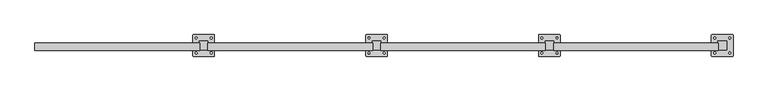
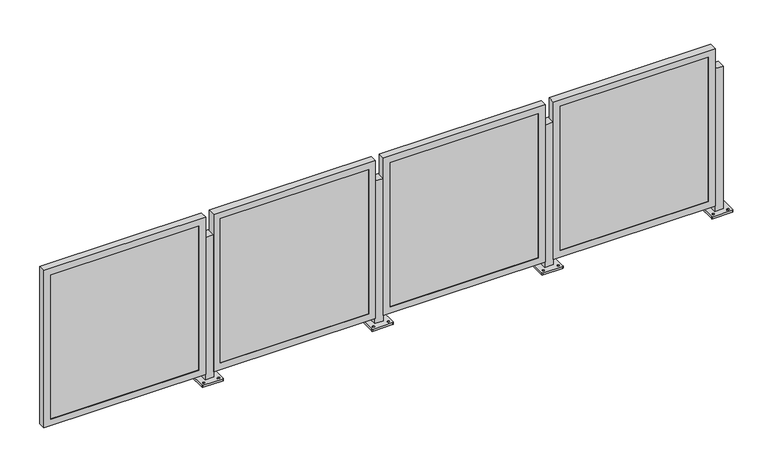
"""IFC4 building model written with IfcOpenShell, lengths in millimetres: railing geometry, Railing - Amico Architectural - Perforated Railing - Venetian."""

from ifc_helpers import new_model, si_unit, frame, origin, place, context, project, spatial, polyline, circle_curve, outline, extrude, faceted_brep, source, transform, mapped, element, save
from ifc_brep_helpers import plane_surface, cylinder_surface, revolved_surface, advanced_brep


def railing_52cd1594(model_context):
    return source(origin(), model_context, "Body", "SolidModel", [
        advanced_brep(
        [(-3170.0306556, -6822.178618, 914.4), (-3170.0306556, -6872.978618, 914.4), (-3119.2306556, -6872.978618, 914.4), (-3119.2306556, -6822.178618, 914.4), (-3208.1306557, -6907.903577, 0.0), (-3208.1306557, -6787.2536591, 0.0), (-3204.9556276, -6784.0786309, 0.0), (-3084.3056836, -6784.0786309, 0.0), (-3081.1306554, -6787.2536591, 0.0), (-3081.1306554, -6907.903577, 0.0), (-3084.3056836, -6911.0786052, 0.0), (-3204.9556276, -6911.0786052, 0.0), (-3189.0806431, -6897.5848727, 0.0), (-3189.0806431, -6886.4723602, 0.0), (-3189.080654, -6808.6848683, 0.0), (-3189.080654, -6797.5723867, 0.0), (-3100.1806422, -6897.5848711, 0.0), (-3100.1806422, -6886.4723605, 0.0), (-3100.1806531, -6808.6848668, 0.0), (-3100.1806531, -6797.572387, 0.0), (-3170.0306556, -6822.178618, 12.7), (-3170.0306556, -6872.978618, 12.7), (-3119.2306556, -6872.978618, 12.7), (-3119.2306556, -6822.178618, 12.7), (-3208.1306557, -6907.903577, 12.7), (-3204.9556276, -6911.0786052, 12.7), (-3084.3056836, -6911.0786052, 12.7), (-3081.1306554, -6907.903577, 12.7), (-3081.1306554, -6787.2536591, 12.7), (-3084.3056836, -6784.0786309, 12.7), (-3204.9556276, -6784.0786309, 12.7), (-3208.1306557, -6787.2536591, 12.7), (-3189.0806431, -6897.5848727, 12.7), (-3189.0806431, -6886.4723602, 12.7), (-3189.080654, -6808.6848683, 12.7), (-3189.080654, -6797.5723867, 12.7), (-3100.1806422, -6897.5848711, 12.7), (-3100.1806422, -6886.4723605, 12.7), (-3100.1806531, -6808.6848668, 12.7), (-3100.1806531, -6797.572387, 12.7)],
        [
            (0, 1),
            (1, 2),
            (2, 3),
            (3, 0),
            (4, 5),
            (5, 6, circle_curve(frame((-3204.9556276, -6787.2536591, 0.0), z_axis=(0.0, 0.0, -1.0), x_axis=(0.0, 1.0, 0.0)), 3.1750282)),
            (6, 7),
            (7, 8, circle_curve(frame((-3084.3056836, -6787.2536591, 0.0), z_axis=(0.0, 0.0, -1.0), x_axis=(0.0, 1.0, 0.0)), 3.1750282)),
            (8, 9),
            (9, 10, circle_curve(frame((-3084.3056836, -6907.903577, 0.0), z_axis=(0.0, 0.0, -1.0), x_axis=(0.0, 1.0, 0.0)), 3.1750282)),
            (10, 11),
            (11, 4, circle_curve(frame((-3204.9556276, -6907.903577, 0.0), z_axis=(0.0, 0.0, -1.0), x_axis=(0.0, 1.0, 0.0)), 3.1750282)),
            (12, 13, circle_curve(frame((-3189.0806431, -6892.0286164, 0.0), z_axis=(0.0, 0.0, 1.0), x_axis=(0.0, 1.0, 0.0)), 5.5562562)),
            (13, 12, circle_curve(frame((-3189.0806431, -6892.0286164, 0.0), z_axis=(0.0, 0.0, 1.0), x_axis=(0.0, 1.0, 0.0)), 5.5562562)),
            (14, 15, circle_curve(frame((-3189.080654, -6803.1286275, 0.0), z_axis=(0.0, 0.0, 1.0), x_axis=(0.0, 1.0, 0.0)), 5.5562408)),
            (15, 14, circle_curve(frame((-3189.080654, -6803.1286275, 0.0), z_axis=(0.0, 0.0, 1.0), x_axis=(0.0, 1.0, 0.0)), 5.5562408)),
            (16, 17, circle_curve(frame((-3100.1806422, -6892.0286158, 0.0), z_axis=(0.0, 0.0, 1.0), x_axis=(0.0, 1.0, 0.0)), 5.5562553)),
            (17, 16, circle_curve(frame((-3100.1806422, -6892.0286158, 0.0), z_axis=(0.0, 0.0, 1.0), x_axis=(0.0, 1.0, 0.0)), 5.5562553)),
            (18, 19, circle_curve(frame((-3100.1806531, -6803.1286269, 0.0), z_axis=(0.0, 0.0, 1.0), x_axis=(0.0, 1.0, 0.0)), 5.5562399)),
            (19, 18, circle_curve(frame((-3100.1806531, -6803.1286269, 0.0), z_axis=(0.0, 0.0, 1.0), x_axis=(0.0, 1.0, 0.0)), 5.5562399)),
            (0, 20),
            (20, 21),
            (21, 1),
            (21, 22),
            (22, 2),
            (22, 23),
            (23, 3),
            (23, 20),
            (24, 25, circle_curve(frame((-3204.9556276, -6907.903577, 12.7), z_axis=(0.0, 0.0, 1.0), x_axis=(0.0, 1.0, 0.0)), 3.1750282)),
            (25, 26),
            (26, 27, circle_curve(frame((-3084.3056836, -6907.903577, 12.7), z_axis=(0.0, 0.0, 1.0), x_axis=(0.0, 1.0, 0.0)), 3.1750282)),
            (27, 28),
            (28, 29, circle_curve(frame((-3084.3056836, -6787.2536591, 12.7), z_axis=(0.0, 0.0, 1.0), x_axis=(0.0, 1.0, 0.0)), 3.1750282)),
            (29, 30),
            (30, 31, circle_curve(frame((-3204.9556276, -6787.2536591, 12.7), z_axis=(0.0, 0.0, 1.0), x_axis=(0.0, 1.0, 0.0)), 3.1750282)),
            (31, 24),
            (32, 33, circle_curve(frame((-3189.0806431, -6892.0286164, 12.7), z_axis=(0.0, 0.0, -1.0), x_axis=(0.0, 1.0, 0.0)), 5.5562562)),
            (33, 32, circle_curve(frame((-3189.0806431, -6892.0286164, 12.7), z_axis=(0.0, 0.0, -1.0), x_axis=(0.0, 1.0, 0.0)), 5.5562562)),
            (34, 35, circle_curve(frame((-3189.080654, -6803.1286275, 12.7), z_axis=(0.0, 0.0, -1.0), x_axis=(0.0, 1.0, 0.0)), 5.5562408)),
            (35, 34, circle_curve(frame((-3189.080654, -6803.1286275, 12.7), z_axis=(0.0, 0.0, -1.0), x_axis=(0.0, 1.0, 0.0)), 5.5562408)),
            (36, 37, circle_curve(frame((-3100.1806422, -6892.0286158, 12.7), z_axis=(0.0, 0.0, -1.0), x_axis=(0.0, 1.0, 0.0)), 5.5562553)),
            (37, 36, circle_curve(frame((-3100.1806422, -6892.0286158, 12.7), z_axis=(0.0, 0.0, -1.0), x_axis=(0.0, 1.0, 0.0)), 5.5562553)),
            (38, 39, circle_curve(frame((-3100.1806531, -6803.1286269, 12.7), z_axis=(0.0, 0.0, -1.0), x_axis=(0.0, 1.0, 0.0)), 5.5562399)),
            (39, 38, circle_curve(frame((-3100.1806531, -6803.1286269, 12.7), z_axis=(0.0, 0.0, -1.0), x_axis=(0.0, 1.0, 0.0)), 5.5562399)),
            (24, 4),
            (11, 25),
            (10, 26),
            (9, 27),
            (8, 28),
            (7, 29),
            (6, 30),
            (5, 31),
            (32, 12),
            (13, 33),
            (34, 14),
            (15, 35),
            (36, 16),
            (17, 37),
            (38, 18),
            (19, 39),
        ],
        [
            plane_surface(frame((-3170.0306556, -6872.978618, 914.4), z_axis=(0.0, 0.0, 1.0), x_axis=(0.0, -1.0, 0.0))),
            plane_surface(frame((-3170.0306556, -6872.978618, 0.0), z_axis=(0.0, 0.0, -1.0), x_axis=(0.0, 1.0, 0.0))),
            plane_surface(frame((-3170.0306556, -6822.178618, 914.4), z_axis=(-1.0, 0.0, 0.0), x_axis=(0.0, 0.0, -1.0))),
            plane_surface(frame((-3170.0306556, -6872.978618, 914.4), z_axis=(0.0, -1.0, 0.0), x_axis=(0.0, 0.0, -1.0))),
            plane_surface(frame((-3119.2306556, -6872.978618, 914.4), z_axis=(1.0, 0.0, 0.0), x_axis=(0.0, 0.0, -1.0))),
            plane_surface(frame((-3119.2306556, -6822.178618, 914.4), z_axis=(0.0, 1.0, 0.0), x_axis=(0.0, 0.0, -1.0))),
            plane_surface(frame((-3204.9556276, -6904.7285488, 12.7), z_axis=(0.0, 0.0, 1.0), x_axis=(-1.0, 0.0, 0.0))),
            cylinder_surface(frame((-3204.9556276, -6907.903577, 0.0), z_axis=(0.0, 0.0, 1.0), x_axis=(0.0, 1.0, 0.0)), 3.1750282),
            plane_surface(frame((-3204.9556276, -6911.0786052, 12.7), z_axis=(1.1945386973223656e-12, -1.0, 0.0), x_axis=(0.0, 0.0, -1.0))),
            cylinder_surface(frame((-3084.3056836, -6907.903577, 0.0), z_axis=(0.0, 0.0, 1.0), x_axis=(0.0, 1.0, 0.0)), 3.1750282),
            plane_surface(frame((-3081.1306554, -6907.903577, 12.7), z_axis=(1.0, 0.0, 0.0), x_axis=(0.0, 0.0, -1.0))),
            cylinder_surface(frame((-3084.3056836, -6787.2536591, 0.0), z_axis=(0.0, 0.0, 1.0), x_axis=(0.0, 1.0, 0.0)), 3.1750282),
            plane_surface(frame((-3084.3056836, -6784.0786309, 12.7), z_axis=(-1.1946088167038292e-12, 1.0, 0.0), x_axis=(0.0, 0.0, -1.0))),
            cylinder_surface(frame((-3204.9556276, -6787.2536591, 0.0), z_axis=(0.0, 0.0, 1.0), x_axis=(0.0, 1.0, 0.0)), 3.1750282),
            plane_surface(frame((-3208.1306557, -6787.2536591, 12.7), z_axis=(-1.0, 0.0, 0.0), x_axis=(0.0, 0.0, -1.0))),
            revolved_surface(polyline([(-3189.0806431, -6886.4723602, 0.0), (-3189.0806431, -6886.4723602, 12.7)]), (-3189.0806431, -6892.0286164, 0.0), (0.0, 0.0, -1.0)),
            revolved_surface(polyline([(-3189.080654, -6797.572386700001, 0.0), (-3189.080654, -6797.572386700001, 12.7)]), (-3189.080654, -6803.1286275, 0.0), (0.0, 0.0, -1.0)),
            revolved_surface(polyline([(-3100.1806422, -6886.4723605, 0.0), (-3100.1806422, -6886.4723605, 12.7)]), (-3100.1806422, -6892.0286158, 0.0), (0.0, 0.0, -1.0)),
            revolved_surface(polyline([(-3100.1806531, -6797.572387, 0.0), (-3100.1806531, -6797.572387, 12.7)]), (-3100.1806531, -6803.1286269, 0.0), (0.0, 0.0, -1.0)),
        ],
        [
            (0, [[1, 2, 3, 4]]),
            (1, [[5, 6, 7, 8, 9, 10, 11, 12], [13, 14], [15, 16], [17, 18], [19, 20]]),
            (2, [[-1, 21, 22, 23]]),
            (3, [[-2, -23, 24, 25]]),
            (4, [[-3, -25, 26, 27]]),
            (5, [[-4, -27, 28, -21]]),
            (6, [[29, 30, 31, 32, 33, 34, 35, 36], [-22, -28, -26, -24], [37, 38], [39, 40], [41, 42], [43, 44]]),
            (7, [[-29, 45, -12, 46]]),
            (8, [[-30, -46, -11, 47]]),
            (9, [[-31, -47, -10, 48]]),
            (10, [[-32, -48, -9, 49]]),
            (11, [[-33, -49, -8, 50]]),
            (12, [[-34, -50, -7, 51]]),
            (13, [[-35, -51, -6, 52]]),
            (14, [[-36, -52, -5, -45]]),
            (15, [[-37, 53, -14, 54]]),
            (15, [[-38, -54, -13, -53]]),
            (16, [[-39, 55, -16, 56]]),
            (16, [[-40, -56, -15, -55]]),
            (17, [[-41, 57, -18, 58]]),
            (17, [[-42, -58, -17, -57]]),
            (18, [[-43, 59, -20, 60]]),
            (18, [[-44, -60, -19, -59]]),
        ],
    ),
        faceted_brep([(-4136.435109, -6875.721818, 47.625), (-3168.060109, -6875.721818, 47.625), (-3168.060109, -6875.721818, 1044.575), (-4136.435109, -6875.721818, 1044.575), (-4095.160109, -6875.721818, 1003.3), (-3209.335109, -6875.721818, 1003.3), (-3209.335109, -6875.721818, 88.9), (-4095.160109, -6875.721818, 88.9), (-4095.160109, -6872.978618, 1003.3), (-4095.160109, -6872.978618, 88.9), (-4136.435109, -6831.8485215, 1044.575), (-4136.435109, -6831.8485215, 47.625), (-4133.260109, -6831.8485215, 1041.4), (-4133.260109, -6872.978618, 1041.4), (-4133.260109, -6872.978618, 50.8), (-4133.260109, -6831.8485215, 50.8), (-3209.335109, -6872.978618, 88.9), (-3168.060109, -6831.8485215, 47.625), (-3171.235109, -6872.978618, 50.8), (-3171.235109, -6831.8485215, 50.8), (-3209.335109, -6872.978618, 1003.3), (-3168.060109, -6831.8485215, 1044.575), (-3171.235109, -6872.978618, 1041.4), (-3171.235109, -6831.8485215, 1041.4)], [[[0, 1, 2, 3], [4, 5, 6, 7]], [[8, 4, 7, 9]], [[3, 10, 11, 0]], [[12, 13, 14, 15]], [[9, 7, 6, 16]], [[0, 11, 17, 1]], [[15, 14, 18, 19]], [[16, 6, 5, 20]], [[1, 17, 21, 2]], [[19, 18, 22, 23]], [[20, 5, 4, 8]], [[10, 21, 17, 11], [15, 19, 23, 12]], [[2, 21, 10, 3]], [[13, 22, 18, 14], [9, 16, 20, 8]], [[23, 22, 13, 12]]]),
        extrude(outline(polyline([(-4133.260109, -6863.453618), (-3171.235109, -6863.453618), (-3171.235109, -6872.978618), (-4133.260109, -6872.978618), (-4133.260109, -6863.453618)])), frame((0.0, 0.0, 50.8), z_axis=(0.0, 0.0, 1.0), x_axis=(1.0, 0.0, 0.0)), (0.0, 0.0, 1.0), 990.6),
        advanced_brep(
        [(-4186.0306556, -6822.178618, 914.4), (-4186.0306556, -6872.978618, 914.4), (-4135.2306556, -6872.978618, 914.4), (-4135.2306556, -6822.178618, 914.4), (-4224.1306557, -6907.903577, 0.0), (-4224.1306557, -6787.2536591, 0.0), (-4220.9556276, -6784.0786309, 0.0), (-4100.3056836, -6784.0786309, 0.0), (-4097.1306554, -6787.2536591, 0.0), (-4097.1306554, -6907.903577, 0.0), (-4100.3056836, -6911.0786052, 0.0), (-4220.9556276, -6911.0786052, 0.0), (-4205.0806431, -6897.5848727, 0.0), (-4205.0806431, -6886.4723602, 0.0), (-4205.080654, -6808.6848683, 0.0), (-4205.080654, -6797.5723867, 0.0), (-4116.1806422, -6897.5848711, 0.0), (-4116.1806422, -6886.4723605, 0.0), (-4116.1806531, -6808.6848668, 0.0), (-4116.1806531, -6797.572387, 0.0), (-4186.0306556, -6822.178618, 12.7), (-4186.0306556, -6872.978618, 12.7), (-4135.2306556, -6872.978618, 12.7), (-4135.2306556, -6822.178618, 12.7), (-4224.1306557, -6907.903577, 12.7), (-4220.9556276, -6911.0786052, 12.7), (-4100.3056836, -6911.0786052, 12.7), (-4097.1306554, -6907.903577, 12.7), (-4097.1306554, -6787.2536591, 12.7), (-4100.3056836, -6784.0786309, 12.7), (-4220.9556276, -6784.0786309, 12.7), (-4224.1306557, -6787.2536591, 12.7), (-4205.0806431, -6897.5848727, 12.7), (-4205.0806431, -6886.4723602, 12.7), (-4205.080654, -6808.6848683, 12.7), (-4205.080654, -6797.5723867, 12.7), (-4116.1806422, -6897.5848711, 12.7), (-4116.1806422, -6886.4723605, 12.7), (-4116.1806531, -6808.6848668, 12.7), (-4116.1806531, -6797.572387, 12.7)],
        [
            (0, 1),
            (1, 2),
            (2, 3),
            (3, 0),
            (4, 5),
            (5, 6, circle_curve(frame((-4220.9556276, -6787.2536591, 0.0), z_axis=(0.0, 0.0, -1.0), x_axis=(0.0, 1.0, 0.0)), 3.1750282)),
            (6, 7),
            (7, 8, circle_curve(frame((-4100.3056836, -6787.2536591, 0.0), z_axis=(0.0, 0.0, -1.0), x_axis=(0.0, 1.0, 0.0)), 3.1750282)),
            (8, 9),
            (9, 10, circle_curve(frame((-4100.3056836, -6907.903577, 0.0), z_axis=(0.0, 0.0, -1.0), x_axis=(0.0, 1.0, 0.0)), 3.1750282)),
            (10, 11),
            (11, 4, circle_curve(frame((-4220.9556276, -6907.903577, 0.0), z_axis=(0.0, 0.0, -1.0), x_axis=(0.0, 1.0, 0.0)), 3.1750282)),
            (12, 13, circle_curve(frame((-4205.0806431, -6892.0286164, 0.0), z_axis=(0.0, 0.0, 1.0), x_axis=(0.0, 1.0, 0.0)), 5.5562562)),
            (13, 12, circle_curve(frame((-4205.0806431, -6892.0286164, 0.0), z_axis=(0.0, 0.0, 1.0), x_axis=(0.0, 1.0, 0.0)), 5.5562562)),
            (14, 15, circle_curve(frame((-4205.080654, -6803.1286275, 0.0), z_axis=(0.0, 0.0, 1.0), x_axis=(0.0, 1.0, 0.0)), 5.5562408)),
            (15, 14, circle_curve(frame((-4205.080654, -6803.1286275, 0.0), z_axis=(0.0, 0.0, 1.0), x_axis=(0.0, 1.0, 0.0)), 5.5562408)),
            (16, 17, circle_curve(frame((-4116.1806422, -6892.0286158, 0.0), z_axis=(0.0, 0.0, 1.0), x_axis=(0.0, 1.0, 0.0)), 5.5562553)),
            (17, 16, circle_curve(frame((-4116.1806422, -6892.0286158, 0.0), z_axis=(0.0, 0.0, 1.0), x_axis=(0.0, 1.0, 0.0)), 5.5562553)),
            (18, 19, circle_curve(frame((-4116.1806531, -6803.1286269, 0.0), z_axis=(0.0, 0.0, 1.0), x_axis=(0.0, 1.0, 0.0)), 5.5562399)),
            (19, 18, circle_curve(frame((-4116.1806531, -6803.1286269, 0.0), z_axis=(0.0, 0.0, 1.0), x_axis=(0.0, 1.0, 0.0)), 5.5562399)),
            (0, 20),
            (20, 21),
            (21, 1),
            (21, 22),
            (22, 2),
            (22, 23),
            (23, 3),
            (23, 20),
            (24, 25, circle_curve(frame((-4220.9556276, -6907.903577, 12.7), z_axis=(0.0, 0.0, 1.0), x_axis=(0.0, 1.0, 0.0)), 3.1750282)),
            (25, 26),
            (26, 27, circle_curve(frame((-4100.3056836, -6907.903577, 12.7), z_axis=(0.0, 0.0, 1.0), x_axis=(0.0, 1.0, 0.0)), 3.1750282)),
            (27, 28),
            (28, 29, circle_curve(frame((-4100.3056836, -6787.2536591, 12.7), z_axis=(0.0, 0.0, 1.0), x_axis=(0.0, 1.0, 0.0)), 3.1750282)),
            (29, 30),
            (30, 31, circle_curve(frame((-4220.9556276, -6787.2536591, 12.7), z_axis=(0.0, 0.0, 1.0), x_axis=(0.0, 1.0, 0.0)), 3.1750282)),
            (31, 24),
            (32, 33, circle_curve(frame((-4205.0806431, -6892.0286164, 12.7), z_axis=(0.0, 0.0, -1.0), x_axis=(0.0, 1.0, 0.0)), 5.5562562)),
            (33, 32, circle_curve(frame((-4205.0806431, -6892.0286164, 12.7), z_axis=(0.0, 0.0, -1.0), x_axis=(0.0, 1.0, 0.0)), 5.5562562)),
            (34, 35, circle_curve(frame((-4205.080654, -6803.1286275, 12.7), z_axis=(0.0, 0.0, -1.0), x_axis=(0.0, 1.0, 0.0)), 5.5562408)),
            (35, 34, circle_curve(frame((-4205.080654, -6803.1286275, 12.7), z_axis=(0.0, 0.0, -1.0), x_axis=(0.0, 1.0, 0.0)), 5.5562408)),
            (36, 37, circle_curve(frame((-4116.1806422, -6892.0286158, 12.7), z_axis=(0.0, 0.0, -1.0), x_axis=(0.0, 1.0, 0.0)), 5.5562553)),
            (37, 36, circle_curve(frame((-4116.1806422, -6892.0286158, 12.7), z_axis=(0.0, 0.0, -1.0), x_axis=(0.0, 1.0, 0.0)), 5.5562553)),
            (38, 39, circle_curve(frame((-4116.1806531, -6803.1286269, 12.7), z_axis=(0.0, 0.0, -1.0), x_axis=(0.0, 1.0, 0.0)), 5.5562399)),
            (39, 38, circle_curve(frame((-4116.1806531, -6803.1286269, 12.7), z_axis=(0.0, 0.0, -1.0), x_axis=(0.0, 1.0, 0.0)), 5.5562399)),
            (24, 4),
            (11, 25),
            (10, 26),
            (9, 27),
            (8, 28),
            (7, 29),
            (6, 30),
            (5, 31),
            (32, 12),
            (13, 33),
            (34, 14),
            (15, 35),
            (36, 16),
            (17, 37),
            (38, 18),
            (19, 39),
        ],
        [
            plane_surface(frame((-4186.0306556, -6872.978618, 914.4), z_axis=(0.0, 0.0, 1.0), x_axis=(0.0, -1.0, 0.0))),
            plane_surface(frame((-4186.0306556, -6872.978618, 0.0), z_axis=(0.0, 0.0, -1.0), x_axis=(0.0, 1.0, 0.0))),
            plane_surface(frame((-4186.0306556, -6822.178618, 914.4), z_axis=(-1.0, 0.0, 0.0), x_axis=(0.0, 0.0, -1.0))),
            plane_surface(frame((-4186.0306556, -6872.978618, 914.4), z_axis=(0.0, -1.0, 0.0), x_axis=(0.0, 0.0, -1.0))),
            plane_surface(frame((-4135.2306556, -6872.978618, 914.4), z_axis=(1.0, 0.0, 0.0), x_axis=(0.0, 0.0, -1.0))),
            plane_surface(frame((-4135.2306556, -6822.178618, 914.4), z_axis=(0.0, 1.0, 0.0), x_axis=(0.0, 0.0, -1.0))),
            plane_surface(frame((-4220.9556276, -6904.7285488, 12.7), z_axis=(0.0, 0.0, 1.0), x_axis=(-1.0, 0.0, 0.0))),
            cylinder_surface(frame((-4220.9556276, -6907.903577, 0.0), z_axis=(0.0, 0.0, 1.0), x_axis=(0.0, 1.0, 0.0)), 3.1750282),
            plane_surface(frame((-4220.9556276, -6911.0786052, 12.7), z_axis=(1.1945386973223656e-12, -1.0, 0.0), x_axis=(0.0, 0.0, -1.0))),
            cylinder_surface(frame((-4100.3056836, -6907.903577, 0.0), z_axis=(0.0, 0.0, 1.0), x_axis=(0.0, 1.0, 0.0)), 3.1750282),
            plane_surface(frame((-4097.1306554, -6907.903577, 12.7), z_axis=(1.0, 0.0, 0.0), x_axis=(0.0, 0.0, -1.0))),
            cylinder_surface(frame((-4100.3056836, -6787.2536591, 0.0), z_axis=(0.0, 0.0, 1.0), x_axis=(0.0, 1.0, 0.0)), 3.1750282),
            plane_surface(frame((-4100.3056836, -6784.0786309, 12.7), z_axis=(-1.1946088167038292e-12, 1.0, 0.0), x_axis=(0.0, 0.0, -1.0))),
            cylinder_surface(frame((-4220.9556276, -6787.2536591, 0.0), z_axis=(0.0, 0.0, 1.0), x_axis=(0.0, 1.0, 0.0)), 3.1750282),
            plane_surface(frame((-4224.1306557, -6787.2536591, 12.7), z_axis=(-1.0, 0.0, 0.0), x_axis=(0.0, 0.0, -1.0))),
            revolved_surface(polyline([(-4205.0806431, -6886.4723602, 0.0), (-4205.0806431, -6886.4723602, 12.7)]), (-4205.0806431, -6892.0286164, 0.0), (0.0, 0.0, -1.0)),
            revolved_surface(polyline([(-4205.080654, -6797.572386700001, 0.0), (-4205.080654, -6797.572386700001, 12.7)]), (-4205.080654, -6803.1286275, 0.0), (0.0, 0.0, -1.0)),
            revolved_surface(polyline([(-4116.1806422, -6886.4723605, 0.0), (-4116.1806422, -6886.4723605, 12.7)]), (-4116.1806422, -6892.0286158, 0.0), (0.0, 0.0, -1.0)),
            revolved_surface(polyline([(-4116.1806531, -6797.572387, 0.0), (-4116.1806531, -6797.572387, 12.7)]), (-4116.1806531, -6803.1286269, 0.0), (0.0, 0.0, -1.0)),
        ],
        [
            (0, [[1, 2, 3, 4]]),
            (1, [[5, 6, 7, 8, 9, 10, 11, 12], [13, 14], [15, 16], [17, 18], [19, 20]]),
            (2, [[-1, 21, 22, 23]]),
            (3, [[-2, -23, 24, 25]]),
            (4, [[-3, -25, 26, 27]]),
            (5, [[-4, -27, 28, -21]]),
            (6, [[29, 30, 31, 32, 33, 34, 35, 36], [-22, -28, -26, -24], [37, 38], [39, 40], [41, 42], [43, 44]]),
            (7, [[-29, 45, -12, 46]]),
            (8, [[-30, -46, -11, 47]]),
            (9, [[-31, -47, -10, 48]]),
            (10, [[-32, -48, -9, 49]]),
            (11, [[-33, -49, -8, 50]]),
            (12, [[-34, -50, -7, 51]]),
            (13, [[-35, -51, -6, 52]]),
            (14, [[-36, -52, -5, -45]]),
            (15, [[-37, 53, -14, 54]]),
            (15, [[-38, -54, -13, -53]]),
            (16, [[-39, 55, -16, 56]]),
            (16, [[-40, -56, -15, -55]]),
            (17, [[-41, 57, -18, 58]]),
            (17, [[-42, -58, -17, -57]]),
            (18, [[-43, 59, -20, 60]]),
            (18, [[-44, -60, -19, -59]]),
        ],
    ),
        faceted_brep([(-5152.435109, -6875.721818, 47.625), (-4184.060109, -6875.721818, 47.625), (-4184.060109, -6875.721818, 1044.575), (-5152.435109, -6875.721818, 1044.575), (-5111.160109, -6875.721818, 1003.3), (-4225.335109, -6875.721818, 1003.3), (-4225.335109, -6875.721818, 88.9), (-5111.160109, -6875.721818, 88.9), (-5111.160109, -6872.978618, 1003.3), (-5111.160109, -6872.978618, 88.9), (-5152.435109, -6831.8485215, 1044.575), (-5152.435109, -6831.8485215, 47.625), (-5149.260109, -6831.8485215, 1041.4), (-5149.260109, -6872.978618, 1041.4), (-5149.260109, -6872.978618, 50.8), (-5149.260109, -6831.8485215, 50.8), (-4225.335109, -6872.978618, 88.9), (-4184.060109, -6831.8485215, 47.625), (-4187.235109, -6872.978618, 50.8), (-4187.235109, -6831.8485215, 50.8), (-4225.335109, -6872.978618, 1003.3), (-4184.060109, -6831.8485215, 1044.575), (-4187.235109, -6872.978618, 1041.4), (-4187.235109, -6831.8485215, 1041.4)], [[[0, 1, 2, 3], [4, 5, 6, 7]], [[8, 4, 7, 9]], [[3, 10, 11, 0]], [[12, 13, 14, 15]], [[9, 7, 6, 16]], [[0, 11, 17, 1]], [[15, 14, 18, 19]], [[16, 6, 5, 20]], [[1, 17, 21, 2]], [[19, 18, 22, 23]], [[20, 5, 4, 8]], [[10, 21, 17, 11], [15, 19, 23, 12]], [[2, 21, 10, 3]], [[13, 22, 18, 14], [9, 16, 20, 8]], [[23, 22, 13, 12]]]),
        extrude(outline(polyline([(-5149.260109, -6863.453618), (-4187.235109, -6863.453618), (-4187.235109, -6872.978618), (-5149.260109, -6872.978618), (-5149.260109, -6863.453618)])), frame((0.0, 0.0, 50.8), z_axis=(0.0, 0.0, 1.0), x_axis=(1.0, 0.0, 0.0)), (0.0, 0.0, 1.0), 990.6),
        advanced_brep(
        [(-5202.0306556, -6822.178618, 914.4), (-5202.0306556, -6872.978618, 914.4), (-5151.2306556, -6872.978618, 914.4), (-5151.2306556, -6822.178618, 914.4), (-5240.1306557, -6907.903577, 0.0), (-5240.1306557, -6787.2536591, 0.0), (-5236.9556276, -6784.0786309, 0.0), (-5116.3056836, -6784.0786309, 0.0), (-5113.1306554, -6787.2536591, 0.0), (-5113.1306554, -6907.903577, 0.0), (-5116.3056836, -6911.0786052, 0.0), (-5236.9556276, -6911.0786052, 0.0), (-5221.0806431, -6897.5848727, 0.0), (-5221.0806431, -6886.4723602, 0.0), (-5221.080654, -6808.6848683, 0.0), (-5221.080654, -6797.5723867, 0.0), (-5132.1806422, -6897.5848711, 0.0), (-5132.1806422, -6886.4723605, 0.0), (-5132.1806531, -6808.6848668, 0.0), (-5132.1806531, -6797.572387, 0.0), (-5202.0306556, -6822.178618, 12.7), (-5202.0306556, -6872.978618, 12.7), (-5151.2306556, -6872.978618, 12.7), (-5151.2306556, -6822.178618, 12.7), (-5240.1306557, -6907.903577, 12.7), (-5236.9556276, -6911.0786052, 12.7), (-5116.3056836, -6911.0786052, 12.7), (-5113.1306554, -6907.903577, 12.7), (-5113.1306554, -6787.2536591, 12.7), (-5116.3056836, -6784.0786309, 12.7), (-5236.9556276, -6784.0786309, 12.7), (-5240.1306557, -6787.2536591, 12.7), (-5221.0806431, -6897.5848727, 12.7), (-5221.0806431, -6886.4723602, 12.7), (-5221.080654, -6808.6848683, 12.7), (-5221.080654, -6797.5723867, 12.7), (-5132.1806422, -6897.5848711, 12.7), (-5132.1806422, -6886.4723605, 12.7), (-5132.1806531, -6808.6848668, 12.7), (-5132.1806531, -6797.572387, 12.7)],
        [
            (0, 1),
            (1, 2),
            (2, 3),
            (3, 0),
            (4, 5),
            (5, 6, circle_curve(frame((-5236.9556276, -6787.2536591, 0.0), z_axis=(0.0, 0.0, -1.0), x_axis=(0.0, 1.0, 0.0)), 3.1750282)),
            (6, 7),
            (7, 8, circle_curve(frame((-5116.3056836, -6787.2536591, 0.0), z_axis=(0.0, 0.0, -1.0), x_axis=(0.0, 1.0, 0.0)), 3.1750282)),
            (8, 9),
            (9, 10, circle_curve(frame((-5116.3056836, -6907.903577, 0.0), z_axis=(0.0, 0.0, -1.0), x_axis=(0.0, 1.0, 0.0)), 3.1750282)),
            (10, 11),
            (11, 4, circle_curve(frame((-5236.9556276, -6907.903577, 0.0), z_axis=(0.0, 0.0, -1.0), x_axis=(0.0, 1.0, 0.0)), 3.1750282)),
            (12, 13, circle_curve(frame((-5221.0806431, -6892.0286164, 0.0), z_axis=(0.0, 0.0, 1.0), x_axis=(0.0, 1.0, 0.0)), 5.5562562)),
            (13, 12, circle_curve(frame((-5221.0806431, -6892.0286164, 0.0), z_axis=(0.0, 0.0, 1.0), x_axis=(0.0, 1.0, 0.0)), 5.5562562)),
            (14, 15, circle_curve(frame((-5221.080654, -6803.1286275, 0.0), z_axis=(0.0, 0.0, 1.0), x_axis=(0.0, 1.0, 0.0)), 5.5562408)),
            (15, 14, circle_curve(frame((-5221.080654, -6803.1286275, 0.0), z_axis=(0.0, 0.0, 1.0), x_axis=(0.0, 1.0, 0.0)), 5.5562408)),
            (16, 17, circle_curve(frame((-5132.1806422, -6892.0286158, 0.0), z_axis=(0.0, 0.0, 1.0), x_axis=(0.0, 1.0, 0.0)), 5.5562553)),
            (17, 16, circle_curve(frame((-5132.1806422, -6892.0286158, 0.0), z_axis=(0.0, 0.0, 1.0), x_axis=(0.0, 1.0, 0.0)), 5.5562553)),
            (18, 19, circle_curve(frame((-5132.1806531, -6803.1286269, 0.0), z_axis=(0.0, 0.0, 1.0), x_axis=(0.0, 1.0, 0.0)), 5.5562399)),
            (19, 18, circle_curve(frame((-5132.1806531, -6803.1286269, 0.0), z_axis=(0.0, 0.0, 1.0), x_axis=(0.0, 1.0, 0.0)), 5.5562399)),
            (0, 20),
            (20, 21),
            (21, 1),
            (21, 22),
            (22, 2),
            (22, 23),
            (23, 3),
            (23, 20),
            (24, 25, circle_curve(frame((-5236.9556276, -6907.903577, 12.7), z_axis=(0.0, 0.0, 1.0), x_axis=(0.0, 1.0, 0.0)), 3.1750282)),
            (25, 26),
            (26, 27, circle_curve(frame((-5116.3056836, -6907.903577, 12.7), z_axis=(0.0, 0.0, 1.0), x_axis=(0.0, 1.0, 0.0)), 3.1750282)),
            (27, 28),
            (28, 29, circle_curve(frame((-5116.3056836, -6787.2536591, 12.7), z_axis=(0.0, 0.0, 1.0), x_axis=(0.0, 1.0, 0.0)), 3.1750282)),
            (29, 30),
            (30, 31, circle_curve(frame((-5236.9556276, -6787.2536591, 12.7), z_axis=(0.0, 0.0, 1.0), x_axis=(0.0, 1.0, 0.0)), 3.1750282)),
            (31, 24),
            (32, 33, circle_curve(frame((-5221.0806431, -6892.0286164, 12.7), z_axis=(0.0, 0.0, -1.0), x_axis=(0.0, 1.0, 0.0)), 5.5562562)),
            (33, 32, circle_curve(frame((-5221.0806431, -6892.0286164, 12.7), z_axis=(0.0, 0.0, -1.0), x_axis=(0.0, 1.0, 0.0)), 5.5562562)),
            (34, 35, circle_curve(frame((-5221.080654, -6803.1286275, 12.7), z_axis=(0.0, 0.0, -1.0), x_axis=(0.0, 1.0, 0.0)), 5.5562408)),
            (35, 34, circle_curve(frame((-5221.080654, -6803.1286275, 12.7), z_axis=(0.0, 0.0, -1.0), x_axis=(0.0, 1.0, 0.0)), 5.5562408)),
            (36, 37, circle_curve(frame((-5132.1806422, -6892.0286158, 12.7), z_axis=(0.0, 0.0, -1.0), x_axis=(0.0, 1.0, 0.0)), 5.5562553)),
            (37, 36, circle_curve(frame((-5132.1806422, -6892.0286158, 12.7), z_axis=(0.0, 0.0, -1.0), x_axis=(0.0, 1.0, 0.0)), 5.5562553)),
            (38, 39, circle_curve(frame((-5132.1806531, -6803.1286269, 12.7), z_axis=(0.0, 0.0, -1.0), x_axis=(0.0, 1.0, 0.0)), 5.5562399)),
            (39, 38, circle_curve(frame((-5132.1806531, -6803.1286269, 12.7), z_axis=(0.0, 0.0, -1.0), x_axis=(0.0, 1.0, 0.0)), 5.5562399)),
            (24, 4),
            (11, 25),
            (10, 26),
            (9, 27),
            (8, 28),
            (7, 29),
            (6, 30),
            (5, 31),
            (32, 12),
            (13, 33),
            (34, 14),
            (15, 35),
            (36, 16),
            (17, 37),
            (38, 18),
            (19, 39),
        ],
        [
            plane_surface(frame((-5202.0306556, -6872.978618, 914.4), z_axis=(0.0, 0.0, 1.0), x_axis=(0.0, -1.0, 0.0))),
            plane_surface(frame((-5202.0306556, -6872.978618, 0.0), z_axis=(0.0, 0.0, -1.0), x_axis=(0.0, 1.0, 0.0))),
            plane_surface(frame((-5202.0306556, -6822.178618, 914.4), z_axis=(-1.0, 0.0, 0.0), x_axis=(0.0, 0.0, -1.0))),
            plane_surface(frame((-5202.0306556, -6872.978618, 914.4), z_axis=(0.0, -1.0, 0.0), x_axis=(0.0, 0.0, -1.0))),
            plane_surface(frame((-5151.2306556, -6872.978618, 914.4), z_axis=(1.0, 0.0, 0.0), x_axis=(0.0, 0.0, -1.0))),
            plane_surface(frame((-5151.2306556, -6822.178618, 914.4), z_axis=(0.0, 1.0, 0.0), x_axis=(0.0, 0.0, -1.0))),
            plane_surface(frame((-5236.9556276, -6904.7285488, 12.7), z_axis=(0.0, 0.0, 1.0), x_axis=(-1.0, 0.0, 0.0))),
            cylinder_surface(frame((-5236.9556276, -6907.903577, 0.0), z_axis=(0.0, 0.0, 1.0), x_axis=(0.0, 1.0, 0.0)), 3.1750282),
            plane_surface(frame((-5236.9556276, -6911.0786052, 12.7), z_axis=(1.1945386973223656e-12, -1.0, 0.0), x_axis=(0.0, 0.0, -1.0))),
            cylinder_surface(frame((-5116.3056836, -6907.903577, 0.0), z_axis=(0.0, 0.0, 1.0), x_axis=(0.0, 1.0, 0.0)), 3.1750282),
            plane_surface(frame((-5113.1306554, -6907.903577, 12.7), z_axis=(1.0, 0.0, 0.0), x_axis=(0.0, 0.0, -1.0))),
            cylinder_surface(frame((-5116.3056836, -6787.2536591, 0.0), z_axis=(0.0, 0.0, 1.0), x_axis=(0.0, 1.0, 0.0)), 3.1750282),
            plane_surface(frame((-5116.3056836, -6784.0786309, 12.7), z_axis=(-1.1946088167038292e-12, 1.0, 0.0), x_axis=(0.0, 0.0, -1.0))),
            cylinder_surface(frame((-5236.9556276, -6787.2536591, 0.0), z_axis=(0.0, 0.0, 1.0), x_axis=(0.0, 1.0, 0.0)), 3.1750282),
            plane_surface(frame((-5240.1306557, -6787.2536591, 12.7), z_axis=(-1.0, 0.0, 0.0), x_axis=(0.0, 0.0, -1.0))),
            revolved_surface(polyline([(-5221.0806431, -6886.4723602, 0.0), (-5221.0806431, -6886.4723602, 12.7)]), (-5221.0806431, -6892.0286164, 0.0), (0.0, 0.0, -1.0)),
            revolved_surface(polyline([(-5221.080654, -6797.572386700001, 0.0), (-5221.080654, -6797.572386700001, 12.7)]), (-5221.080654, -6803.1286275, 0.0), (0.0, 0.0, -1.0)),
            revolved_surface(polyline([(-5132.1806422, -6886.4723605, 0.0), (-5132.1806422, -6886.4723605, 12.7)]), (-5132.1806422, -6892.0286158, 0.0), (0.0, 0.0, -1.0)),
            revolved_surface(polyline([(-5132.1806531, -6797.572387, 0.0), (-5132.1806531, -6797.572387, 12.7)]), (-5132.1806531, -6803.1286269, 0.0), (0.0, 0.0, -1.0)),
        ],
        [
            (0, [[1, 2, 3, 4]]),
            (1, [[5, 6, 7, 8, 9, 10, 11, 12], [13, 14], [15, 16], [17, 18], [19, 20]]),
            (2, [[-1, 21, 22, 23]]),
            (3, [[-2, -23, 24, 25]]),
            (4, [[-3, -25, 26, 27]]),
            (5, [[-4, -27, 28, -21]]),
            (6, [[29, 30, 31, 32, 33, 34, 35, 36], [-22, -28, -26, -24], [37, 38], [39, 40], [41, 42], [43, 44]]),
            (7, [[-29, 45, -12, 46]]),
            (8, [[-30, -46, -11, 47]]),
            (9, [[-31, -47, -10, 48]]),
            (10, [[-32, -48, -9, 49]]),
            (11, [[-33, -49, -8, 50]]),
            (12, [[-34, -50, -7, 51]]),
            (13, [[-35, -51, -6, 52]]),
            (14, [[-36, -52, -5, -45]]),
            (15, [[-37, 53, -14, 54]]),
            (15, [[-38, -54, -13, -53]]),
            (16, [[-39, 55, -16, 56]]),
            (16, [[-40, -56, -15, -55]]),
            (17, [[-41, 57, -18, 58]]),
            (17, [[-42, -58, -17, -57]]),
            (18, [[-43, 59, -20, 60]]),
            (18, [[-44, -60, -19, -59]]),
        ],
    ),
        faceted_brep([(-6168.435109, -6875.721818, 47.625), (-5200.060109, -6875.721818, 47.625), (-5200.060109, -6875.721818, 1044.575), (-6168.435109, -6875.721818, 1044.575), (-6127.160109, -6875.721818, 1003.3), (-5241.335109, -6875.721818, 1003.3), (-5241.335109, -6875.721818, 88.9), (-6127.160109, -6875.721818, 88.9), (-6127.160109, -6872.978618, 1003.3), (-6127.160109, -6872.978618, 88.9), (-6168.435109, -6831.8485215, 1044.575), (-6168.435109, -6831.8485215, 47.625), (-6165.260109, -6831.8485215, 1041.4), (-6165.260109, -6872.978618, 1041.4), (-6165.260109, -6872.978618, 50.8), (-6165.260109, -6831.8485215, 50.8), (-5241.335109, -6872.978618, 88.9), (-5200.060109, -6831.8485215, 47.625), (-5203.235109, -6872.978618, 50.8), (-5203.235109, -6831.8485215, 50.8), (-5241.335109, -6872.978618, 1003.3), (-5200.060109, -6831.8485215, 1044.575), (-5203.235109, -6872.978618, 1041.4), (-5203.235109, -6831.8485215, 1041.4)], [[[0, 1, 2, 3], [4, 5, 6, 7]], [[8, 4, 7, 9]], [[3, 10, 11, 0]], [[12, 13, 14, 15]], [[9, 7, 6, 16]], [[0, 11, 17, 1]], [[15, 14, 18, 19]], [[16, 6, 5, 20]], [[1, 17, 21, 2]], [[19, 18, 22, 23]], [[20, 5, 4, 8]], [[10, 21, 17, 11], [15, 19, 23, 12]], [[2, 21, 10, 3]], [[13, 22, 18, 14], [9, 16, 20, 8]], [[23, 22, 13, 12]]]),
        extrude(outline(polyline([(-6165.260109, -6863.453618), (-5203.235109, -6863.453618), (-5203.235109, -6872.978618), (-6165.260109, -6872.978618), (-6165.260109, -6863.453618)])), frame((0.0, 0.0, 50.8), z_axis=(0.0, 0.0, 1.0), x_axis=(1.0, 0.0, 0.0)), (0.0, 0.0, 1.0), 990.6),
        advanced_brep(
        [(-6218.0306556, -6822.178618, 914.4), (-6218.0306556, -6872.978618, 914.4), (-6167.2306556, -6872.978618, 914.4), (-6167.2306556, -6822.178618, 914.4), (-6256.1306557, -6907.903577, 0.0), (-6256.1306557, -6787.2536591, 0.0), (-6252.9556276, -6784.0786309, 0.0), (-6132.3056836, -6784.0786309, 0.0), (-6129.1306554, -6787.2536591, 0.0), (-6129.1306554, -6907.903577, 0.0), (-6132.3056836, -6911.0786052, 0.0), (-6252.9556276, -6911.0786052, 0.0), (-6237.0806431, -6897.5848727, 0.0), (-6237.0806431, -6886.4723602, 0.0), (-6237.080654, -6808.6848683, 0.0), (-6237.080654, -6797.5723867, 0.0), (-6148.1806422, -6897.5848711, 0.0), (-6148.1806422, -6886.4723605, 0.0), (-6148.1806531, -6808.6848668, 0.0), (-6148.1806531, -6797.572387, 0.0), (-6218.0306556, -6822.178618, 12.7), (-6218.0306556, -6872.978618, 12.7), (-6167.2306556, -6872.978618, 12.7), (-6167.2306556, -6822.178618, 12.7), (-6256.1306557, -6907.903577, 12.7), (-6252.9556276, -6911.0786052, 12.7), (-6132.3056836, -6911.0786052, 12.7), (-6129.1306554, -6907.903577, 12.7), (-6129.1306554, -6787.2536591, 12.7), (-6132.3056836, -6784.0786309, 12.7), (-6252.9556276, -6784.0786309, 12.7), (-6256.1306557, -6787.2536591, 12.7), (-6237.0806431, -6897.5848727, 12.7), (-6237.0806431, -6886.4723602, 12.7), (-6237.080654, -6808.6848683, 12.7), (-6237.080654, -6797.5723867, 12.7), (-6148.1806422, -6897.5848711, 12.7), (-6148.1806422, -6886.4723605, 12.7), (-6148.1806531, -6808.6848668, 12.7), (-6148.1806531, -6797.572387, 12.7)],
        [
            (0, 1),
            (1, 2),
            (2, 3),
            (3, 0),
            (4, 5),
            (5, 6, circle_curve(frame((-6252.9556276, -6787.2536591, 0.0), z_axis=(0.0, 0.0, -1.0), x_axis=(0.0, 1.0, 0.0)), 3.1750282)),
            (6, 7),
            (7, 8, circle_curve(frame((-6132.3056836, -6787.2536591, 0.0), z_axis=(0.0, 0.0, -1.0), x_axis=(0.0, 1.0, 0.0)), 3.1750282)),
            (8, 9),
            (9, 10, circle_curve(frame((-6132.3056836, -6907.903577, 0.0), z_axis=(0.0, 0.0, -1.0), x_axis=(0.0, 1.0, 0.0)), 3.1750282)),
            (10, 11),
            (11, 4, circle_curve(frame((-6252.9556276, -6907.903577, 0.0), z_axis=(0.0, 0.0, -1.0), x_axis=(0.0, 1.0, 0.0)), 3.1750282)),
            (12, 13, circle_curve(frame((-6237.0806431, -6892.0286164, 0.0), z_axis=(0.0, 0.0, 1.0), x_axis=(0.0, 1.0, 0.0)), 5.5562562)),
            (13, 12, circle_curve(frame((-6237.0806431, -6892.0286164, 0.0), z_axis=(0.0, 0.0, 1.0), x_axis=(0.0, 1.0, 0.0)), 5.5562562)),
            (14, 15, circle_curve(frame((-6237.080654, -6803.1286275, 0.0), z_axis=(0.0, 0.0, 1.0), x_axis=(0.0, 1.0, 0.0)), 5.5562408)),
            (15, 14, circle_curve(frame((-6237.080654, -6803.1286275, 0.0), z_axis=(0.0, 0.0, 1.0), x_axis=(0.0, 1.0, 0.0)), 5.5562408)),
            (16, 17, circle_curve(frame((-6148.1806422, -6892.0286158, 0.0), z_axis=(0.0, 0.0, 1.0), x_axis=(0.0, 1.0, 0.0)), 5.5562553)),
            (17, 16, circle_curve(frame((-6148.1806422, -6892.0286158, 0.0), z_axis=(0.0, 0.0, 1.0), x_axis=(0.0, 1.0, 0.0)), 5.5562553)),
            (18, 19, circle_curve(frame((-6148.1806531, -6803.1286269, 0.0), z_axis=(0.0, 0.0, 1.0), x_axis=(0.0, 1.0, 0.0)), 5.5562399)),
            (19, 18, circle_curve(frame((-6148.1806531, -6803.1286269, 0.0), z_axis=(0.0, 0.0, 1.0), x_axis=(0.0, 1.0, 0.0)), 5.5562399)),
            (0, 20),
            (20, 21),
            (21, 1),
            (21, 22),
            (22, 2),
            (22, 23),
            (23, 3),
            (23, 20),
            (24, 25, circle_curve(frame((-6252.9556276, -6907.903577, 12.7), z_axis=(0.0, 0.0, 1.0), x_axis=(0.0, 1.0, 0.0)), 3.1750282)),
            (25, 26),
            (26, 27, circle_curve(frame((-6132.3056836, -6907.903577, 12.7), z_axis=(0.0, 0.0, 1.0), x_axis=(0.0, 1.0, 0.0)), 3.1750282)),
            (27, 28),
            (28, 29, circle_curve(frame((-6132.3056836, -6787.2536591, 12.7), z_axis=(0.0, 0.0, 1.0), x_axis=(0.0, 1.0, 0.0)), 3.1750282)),
            (29, 30),
            (30, 31, circle_curve(frame((-6252.9556276, -6787.2536591, 12.7), z_axis=(0.0, 0.0, 1.0), x_axis=(0.0, 1.0, 0.0)), 3.1750282)),
            (31, 24),
            (32, 33, circle_curve(frame((-6237.0806431, -6892.0286164, 12.7), z_axis=(0.0, 0.0, -1.0), x_axis=(0.0, 1.0, 0.0)), 5.5562562)),
            (33, 32, circle_curve(frame((-6237.0806431, -6892.0286164, 12.7), z_axis=(0.0, 0.0, -1.0), x_axis=(0.0, 1.0, 0.0)), 5.5562562)),
            (34, 35, circle_curve(frame((-6237.080654, -6803.1286275, 12.7), z_axis=(0.0, 0.0, -1.0), x_axis=(0.0, 1.0, 0.0)), 5.5562408)),
            (35, 34, circle_curve(frame((-6237.080654, -6803.1286275, 12.7), z_axis=(0.0, 0.0, -1.0), x_axis=(0.0, 1.0, 0.0)), 5.5562408)),
            (36, 37, circle_curve(frame((-6148.1806422, -6892.0286158, 12.7), z_axis=(0.0, 0.0, -1.0), x_axis=(0.0, 1.0, 0.0)), 5.5562553)),
            (37, 36, circle_curve(frame((-6148.1806422, -6892.0286158, 12.7), z_axis=(0.0, 0.0, -1.0), x_axis=(0.0, 1.0, 0.0)), 5.5562553)),
            (38, 39, circle_curve(frame((-6148.1806531, -6803.1286269, 12.7), z_axis=(0.0, 0.0, -1.0), x_axis=(0.0, 1.0, 0.0)), 5.5562399)),
            (39, 38, circle_curve(frame((-6148.1806531, -6803.1286269, 12.7), z_axis=(0.0, 0.0, -1.0), x_axis=(0.0, 1.0, 0.0)), 5.5562399)),
            (24, 4),
            (11, 25),
            (10, 26),
            (9, 27),
            (8, 28),
            (7, 29),
            (6, 30),
            (5, 31),
            (32, 12),
            (13, 33),
            (34, 14),
            (15, 35),
            (36, 16),
            (17, 37),
            (38, 18),
            (19, 39),
        ],
        [
            plane_surface(frame((-6218.0306556, -6872.978618, 914.4), z_axis=(0.0, 0.0, 1.0), x_axis=(0.0, -1.0, 0.0))),
            plane_surface(frame((-6218.0306556, -6872.978618, 0.0), z_axis=(0.0, 0.0, -1.0), x_axis=(0.0, 1.0, 0.0))),
            plane_surface(frame((-6218.0306556, -6822.178618, 914.4), z_axis=(-1.0, 0.0, 0.0), x_axis=(0.0, 0.0, -1.0))),
            plane_surface(frame((-6218.0306556, -6872.978618, 914.4), z_axis=(0.0, -1.0, 0.0), x_axis=(0.0, 0.0, -1.0))),
            plane_surface(frame((-6167.2306556, -6872.978618, 914.4), z_axis=(1.0, 0.0, 0.0), x_axis=(0.0, 0.0, -1.0))),
            plane_surface(frame((-6167.2306556, -6822.178618, 914.4), z_axis=(0.0, 1.0, 0.0), x_axis=(0.0, 0.0, -1.0))),
            plane_surface(frame((-6252.9556276, -6904.7285488, 12.7), z_axis=(0.0, 0.0, 1.0), x_axis=(-1.0, 0.0, 0.0))),
            cylinder_surface(frame((-6252.9556276, -6907.903577, 0.0), z_axis=(0.0, 0.0, 1.0), x_axis=(0.0, 1.0, 0.0)), 3.1750282),
            plane_surface(frame((-6252.9556276, -6911.0786052, 12.7), z_axis=(1.1945386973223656e-12, -1.0, 0.0), x_axis=(0.0, 0.0, -1.0))),
            cylinder_surface(frame((-6132.3056836, -6907.903577, 0.0), z_axis=(0.0, 0.0, 1.0), x_axis=(0.0, 1.0, 0.0)), 3.1750282),
            plane_surface(frame((-6129.1306554, -6907.903577, 12.7), z_axis=(1.0, 0.0, 0.0), x_axis=(0.0, 0.0, -1.0))),
            cylinder_surface(frame((-6132.3056836, -6787.2536591, 0.0), z_axis=(0.0, 0.0, 1.0), x_axis=(0.0, 1.0, 0.0)), 3.1750282),
            plane_surface(frame((-6132.3056836, -6784.0786309, 12.7), z_axis=(-1.1946088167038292e-12, 1.0, 0.0), x_axis=(0.0, 0.0, -1.0))),
            cylinder_surface(frame((-6252.9556276, -6787.2536591, 0.0), z_axis=(0.0, 0.0, 1.0), x_axis=(0.0, 1.0, 0.0)), 3.1750282),
            plane_surface(frame((-6256.1306557, -6787.2536591, 12.7), z_axis=(-1.0, 0.0, 0.0), x_axis=(0.0, 0.0, -1.0))),
            revolved_surface(polyline([(-6237.0806431, -6886.4723602, 0.0), (-6237.0806431, -6886.4723602, 12.7)]), (-6237.0806431, -6892.0286164, 0.0), (0.0, 0.0, -1.0)),
            revolved_surface(polyline([(-6237.080654, -6797.572386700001, 0.0), (-6237.080654, -6797.572386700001, 12.7)]), (-6237.080654, -6803.1286275, 0.0), (0.0, 0.0, -1.0)),
            revolved_surface(polyline([(-6148.1806422, -6886.4723605, 0.0), (-6148.1806422, -6886.4723605, 12.7)]), (-6148.1806422, -6892.0286158, 0.0), (0.0, 0.0, -1.0)),
            revolved_surface(polyline([(-6148.1806531, -6797.572387, 0.0), (-6148.1806531, -6797.572387, 12.7)]), (-6148.1806531, -6803.1286269, 0.0), (0.0, 0.0, -1.0)),
        ],
        [
            (0, [[1, 2, 3, 4]]),
            (1, [[5, 6, 7, 8, 9, 10, 11, 12], [13, 14], [15, 16], [17, 18], [19, 20]]),
            (2, [[-1, 21, 22, 23]]),
            (3, [[-2, -23, 24, 25]]),
            (4, [[-3, -25, 26, 27]]),
            (5, [[-4, -27, 28, -21]]),
            (6, [[29, 30, 31, 32, 33, 34, 35, 36], [-22, -28, -26, -24], [37, 38], [39, 40], [41, 42], [43, 44]]),
            (7, [[-29, 45, -12, 46]]),
            (8, [[-30, -46, -11, 47]]),
            (9, [[-31, -47, -10, 48]]),
            (10, [[-32, -48, -9, 49]]),
            (11, [[-33, -49, -8, 50]]),
            (12, [[-34, -50, -7, 51]]),
            (13, [[-35, -51, -6, 52]]),
            (14, [[-36, -52, -5, -45]]),
            (15, [[-37, 53, -14, 54]]),
            (15, [[-38, -54, -13, -53]]),
            (16, [[-39, 55, -16, 56]]),
            (16, [[-40, -56, -15, -55]]),
            (17, [[-41, 57, -18, 58]]),
            (17, [[-42, -58, -17, -57]]),
            (18, [[-43, 59, -20, 60]]),
            (18, [[-44, -60, -19, -59]]),
        ],
    ),
        faceted_brep([(-7184.435109, -6875.721818, 47.625), (-6216.060109, -6875.721818, 47.625), (-6216.060109, -6875.721818, 1044.575), (-7184.435109, -6875.721818, 1044.575), (-7143.160109, -6875.721818, 1003.3), (-6257.335109, -6875.721818, 1003.3), (-6257.335109, -6875.721818, 88.9), (-7143.160109, -6875.721818, 88.9), (-7143.160109, -6872.978618, 1003.3), (-7143.160109, -6872.978618, 88.9), (-7184.435109, -6831.8485215, 1044.575), (-7184.435109, -6831.8485215, 47.625), (-7181.260109, -6831.8485215, 1041.4), (-7181.260109, -6872.978618, 1041.4), (-7181.260109, -6872.978618, 50.8), (-7181.260109, -6831.8485215, 50.8), (-6257.335109, -6872.978618, 88.9), (-6216.060109, -6831.8485215, 47.625), (-6219.235109, -6872.978618, 50.8), (-6219.235109, -6831.8485215, 50.8), (-6257.335109, -6872.978618, 1003.3), (-6216.060109, -6831.8485215, 1044.575), (-6219.235109, -6872.978618, 1041.4), (-6219.235109, -6831.8485215, 1041.4)], [[[0, 1, 2, 3], [4, 5, 6, 7]], [[8, 4, 7, 9]], [[3, 10, 11, 0]], [[12, 13, 14, 15]], [[9, 7, 6, 16]], [[0, 11, 17, 1]], [[15, 14, 18, 19]], [[16, 6, 5, 20]], [[1, 17, 21, 2]], [[19, 18, 22, 23]], [[20, 5, 4, 8]], [[10, 21, 17, 11], [15, 19, 23, 12]], [[2, 21, 10, 3]], [[13, 22, 18, 14], [9, 16, 20, 8]], [[23, 22, 13, 12]]]),
        extrude(outline(polyline([(-7181.260109, -6863.453618), (-6219.235109, -6863.453618), (-6219.235109, -6872.978618), (-7181.260109, -6872.978618), (-7181.260109, -6863.453618)])), frame((0.0, 0.0, 50.8), z_axis=(0.0, 0.0, 1.0), x_axis=(1.0, 0.0, 0.0)), (0.0, 0.0, 1.0), 990.6),
    ])


if __name__ == "__main__":
    model = new_model("IFC4")
    model_context = context("Model", 3, world=origin())
    ifc_project = project(units=[si_unit("LENGTHUNIT", "METRE", prefix="MILLI")], contexts=[model_context])
    site = spatial("IfcSite", under=ifc_project)
    building = spatial("IfcBuilding", under=site)
    placement = place(None, origin())
    railing_shape = railing_52cd1594(model_context)
    element("IfcRailing", 1, ObjectType="Railing - Amico Architectural - Perforated Railing - Venetian", at=placement, inside=building, context=model_context, shape_type="MappedRepresentation", body=[
        mapped(railing_shape, transform((0.0, 0.0, 0.0), x_axis=(1.0, 0.0, 0.0), y_axis=(0.0, 1.0, 0.0), z_axis=(0.0, 0.0, 1.0))),
    ])
    save(model, "model.ifc")
